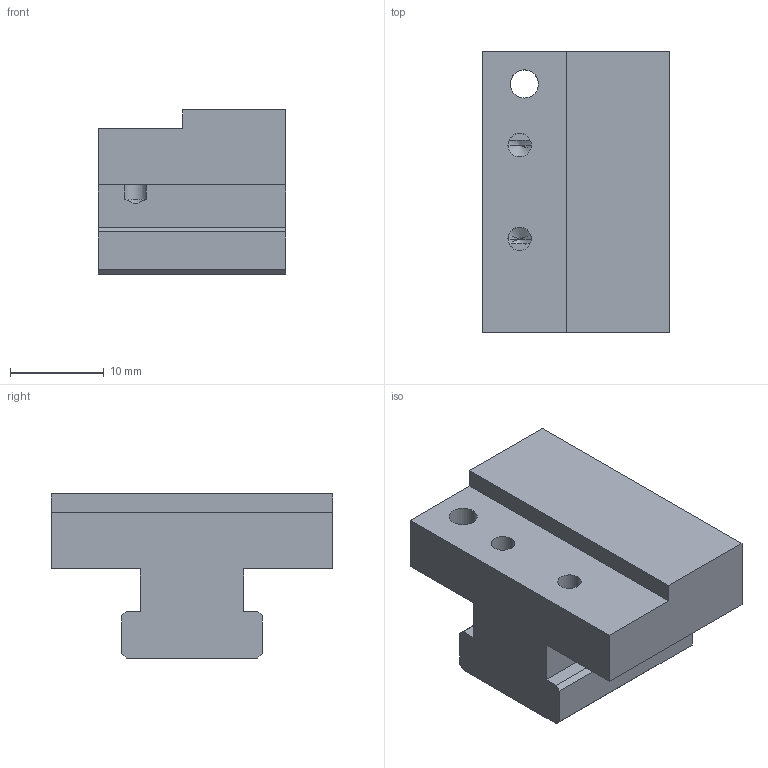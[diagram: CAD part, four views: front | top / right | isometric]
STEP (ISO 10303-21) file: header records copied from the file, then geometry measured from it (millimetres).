
FILE_DESCRIPTION (( 'STEP AP203' ), '1' );
FILE_NAME ('mzwtqxxxx782-e54.step', '2026-06-30T10:28:32', ( '' ), ( '' ), 'SwSTEP 2.0', 'SolidWorks 2024', '' );
FILE_SCHEMA (( 'CONFIG_CONTROL_DESIGN' ));
Length unit declared in the file: millimetre
Products named in the file (1): mzwtqxxxx782-e54
Bounding box: 20 x 30 x 17.5 mm (x, y, z)
Volume: 6549.5 mm3; surface area: 2987.7 mm2
Topology: 1 solids, 1 shells, 38 faces, 112 edges, 68 vertices
Faces by surface type: plane 20, cylinder 10, cone 8
Entity records: 1311 total; most frequent: CARTESIAN_POINT 237, ORIENTED_EDGE 208, DIRECTION 204, EDGE_CURVE 104, LINE 78, VECTOR 78, VERTEX_POINT 68, AXIS2_PLACEMENT_3D 63
